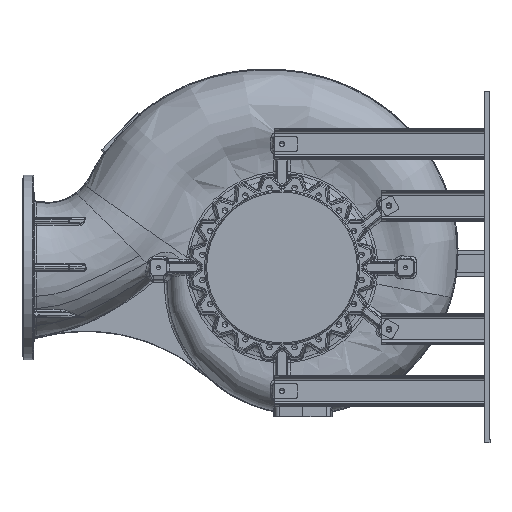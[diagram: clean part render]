
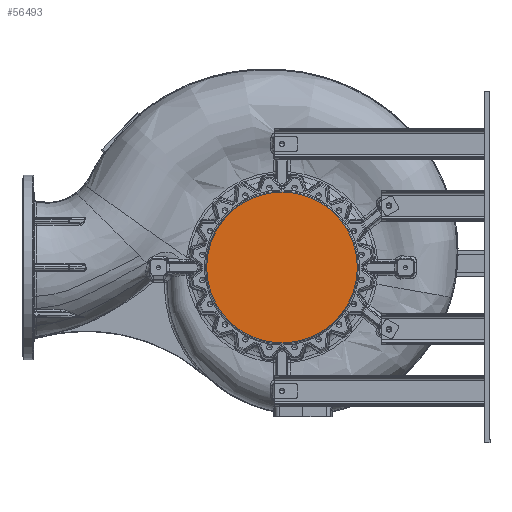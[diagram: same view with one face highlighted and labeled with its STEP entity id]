
A CAD part, left-side view. The second image highlights one B-rep face of the part: STEP entity #56493.
In plain terms, the highlighted planar face has unit normal (-1, 0, 0).
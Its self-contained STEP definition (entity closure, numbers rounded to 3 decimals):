
#8594 = PLANE ( 'NONE',  #61463 ) ;
#17045 = EDGE_CURVE ( 'NONE', #210999, #253933, #92460, .T. ) ;
#20932 = AXIS2_PLACEMENT_3D ( 'NONE', #193607, #61826, #215854 ) ;
#39765 = AXIS2_PLACEMENT_3D ( 'NONE', #120994, #275198, #143062 ) ;
#56493 = ADVANCED_FACE ( 'NONE', ( #140927 ), #8594, .F. ) ;
#57143 = EDGE_LOOP ( 'NONE', ( #145323, #208440 ) ) ;
#61463 = AXIS2_PLACEMENT_3D ( 'NONE', #97005, #251143, #119188 ) ;
#61826 = DIRECTION ( 'NONE',  ( 1., 0., 0. ) ) ;
#89352 = EDGE_CURVE ( 'NONE', #253933, #210999, #209747, .T. ) ;
#90823 = CARTESIAN_POINT ( 'NONE',  ( 0., -1000., -290. ) ) ;
#92460 = CIRCLE ( 'NONE', #20932, 290. ) ;
#97005 = CARTESIAN_POINT ( 'NONE',  ( 0., -1000., 0. ) ) ;
#119188 = DIRECTION ( 'NONE',  ( 0., 0., 1. ) ) ;
#120994 = CARTESIAN_POINT ( 'NONE',  ( 0., -1000., 0. ) ) ;
#140927 = FACE_OUTER_BOUND ( 'NONE', #57143, .T. ) ;
#143062 = DIRECTION ( 'NONE',  ( 0., 0., 1. ) ) ;
#145323 = ORIENTED_EDGE ( 'NONE', *, *, #89352, .F. ) ;
#193607 = CARTESIAN_POINT ( 'NONE',  ( 0., -1000., 0. ) ) ;
#208440 = ORIENTED_EDGE ( 'NONE', *, *, #17045, .F. ) ;
#209747 = CIRCLE ( 'NONE', #39765, 290. ) ;
#210999 = VERTEX_POINT ( 'NONE', #90823 ) ;
#215854 = DIRECTION ( 'NONE',  ( 0., 0., 1. ) ) ;
#251143 = DIRECTION ( 'NONE',  ( 1., 0., 0. ) ) ;
#253933 = VERTEX_POINT ( 'NONE', #284276 ) ;
#275198 = DIRECTION ( 'NONE',  ( 1., 0., 0. ) ) ;
#284276 = CARTESIAN_POINT ( 'NONE',  ( 0., -1000., 290. ) ) ;
